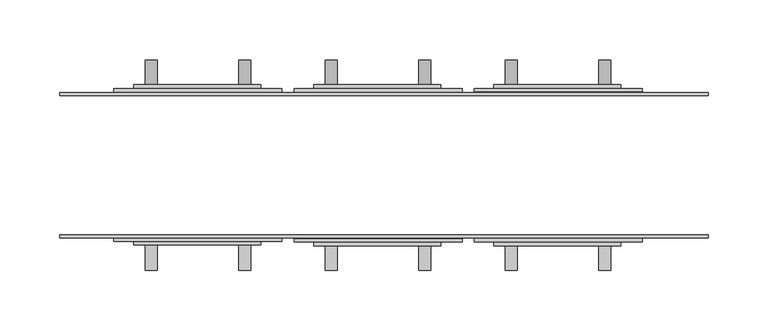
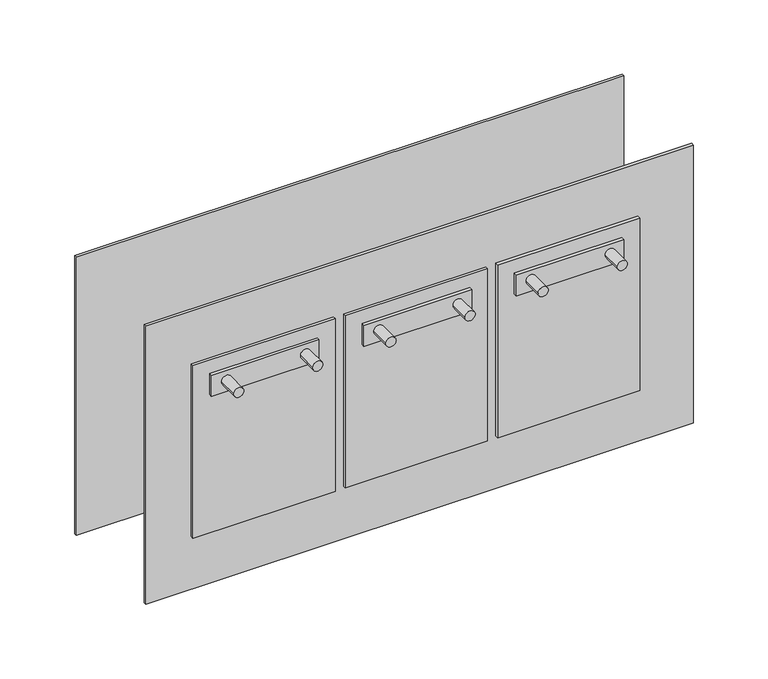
"""IFC4 building model written with IfcOpenShell, lengths in millimetres: proxy geometry, Distribution_Sockets : Distribution_Sockets."""

from ifc_helpers import new_model, si_unit, point, frame, frame_2d, origin, place, context, project, spatial, polyline, circle_curve, trimmed, segment, composite_curve, outline, extrude, source, transform, mapped, element, save


def electrical_equipment_7de670ac(model_context):
    return source(origin(), model_context, "Body", "SweptSolid", [
        extrude(outline(composite_curve([segment(trimmed(circle_curve(frame_2d((65.938994, -268.933241)), 5.0), [point((65.938994, -273.933241))], [point((65.938994, -263.933241))], False, "CARTESIAN"), True, "CONTINUOUS"), segment(trimmed(circle_curve(frame_2d((65.938994, -268.933241)), 5.0), [point((65.938994, -263.933241))], [point((65.938994, -273.933241))], False, "CARTESIAN"), True, "CONTINUOUS")], self_intersect=False)), frame((0.0, -87.9, 0.0), z_axis=(0.0, 1.0, 0.0), x_axis=(0.0, 0.0, 1.0)), (0.0, 0.0, 1.0), 20.9),
        extrude(outline(composite_curve([segment(trimmed(circle_curve(frame_2d((65.938994, -190.9375543)), 5.0), [point((65.938994, -195.9375543))], [point((65.938994, -185.9375543))], False, "CARTESIAN"), True, "CONTINUOUS"), segment(trimmed(circle_curve(frame_2d((65.938994, -190.9375543)), 5.0), [point((65.938994, -185.9375543))], [point((65.938994, -195.9375543))], False, "CARTESIAN"), True, "CONTINUOUS")], self_intersect=False)), frame((0.0, -87.9, 0.0), z_axis=(0.0, 1.0, 0.0), x_axis=(0.0, 0.0, 1.0)), (0.0, 0.0, 1.0), 20.9),
        extrude(outline(composite_curve([segment(trimmed(circle_curve(frame_2d((65.938994, -118.920841)), 5.0), [point((65.938994, -123.920841))], [point((65.938994, -113.920841))], False, "CARTESIAN"), True, "CONTINUOUS"), segment(trimmed(circle_curve(frame_2d((65.938994, -118.920841)), 5.0), [point((65.938994, -113.920841))], [point((65.938994, -123.920841))], False, "CARTESIAN"), True, "CONTINUOUS")], self_intersect=False)), frame((0.0, -87.9, 0.0), z_axis=(0.0, 1.0, 0.0), x_axis=(0.0, 0.0, 1.0)), (0.0, 0.0, 1.0), 20.9),
        extrude(outline(composite_curve([segment(trimmed(circle_curve(frame_2d((65.938994, -40.9251543)), 5.0), [point((65.938994, -45.9251543))], [point((65.938994, -35.9251543))], False, "CARTESIAN"), True, "CONTINUOUS"), segment(trimmed(circle_curve(frame_2d((65.938994, -40.9251543)), 5.0), [point((65.938994, -35.9251543))], [point((65.938994, -45.9251543))], False, "CARTESIAN"), True, "CONTINUOUS")], self_intersect=False)), frame((0.0, -87.9, 0.0), z_axis=(0.0, 1.0, 0.0), x_axis=(0.0, 0.0, 1.0)), (0.0, 0.0, 1.0), 20.9),
        extrude(outline(composite_curve([segment(trimmed(circle_curve(frame_2d((65.938994, 31.079159)), 5.0), [point((65.938994, 26.079159))], [point((65.938994, 36.079159))], False, "CARTESIAN"), True, "CONTINUOUS"), segment(trimmed(circle_curve(frame_2d((65.938994, 31.079159)), 5.0), [point((65.938994, 36.079159))], [point((65.938994, 26.079159))], False, "CARTESIAN"), True, "CONTINUOUS")], self_intersect=False)), frame((0.0, -87.9, 0.0), z_axis=(0.0, 1.0, 0.0), x_axis=(0.0, 0.0, 1.0)), (0.0, 0.0, 1.0), 20.9),
        extrude(outline(composite_curve([segment(trimmed(circle_curve(frame_2d((65.938994, 109.0748457)), 5.0), [point((65.938994, 104.0748457))], [point((65.938994, 114.0748457))], False, "CARTESIAN"), True, "CONTINUOUS"), segment(trimmed(circle_curve(frame_2d((65.938994, 109.0748457)), 5.0), [point((65.938994, 114.0748457))], [point((65.938994, 104.0748457))], False, "CARTESIAN"), True, "CONTINUOUS")], self_intersect=False)), frame((0.0, -87.9, 0.0), z_axis=(0.0, 1.0, 0.0), x_axis=(0.0, 0.0, 1.0)), (0.0, 0.0, 1.0), 20.9),
        extrude(outline(composite_curve([segment(trimmed(circle_curve(frame_2d((65.938994, -268.933241)), 5.0), [point((65.938994, -273.933241))], [point((65.938994, -263.933241))], False, "CARTESIAN"), True, "CONTINUOUS"), segment(trimmed(circle_curve(frame_2d((65.938994, -268.933241)), 5.0), [point((65.938994, -263.933241))], [point((65.938994, -273.933241))], False, "CARTESIAN"), True, "CONTINUOUS")], self_intersect=False)), frame((0.0, 67.0, 0.0), z_axis=(0.0, 1.0, 0.0), x_axis=(0.0, 0.0, 1.0)), (0.0, 0.0, 1.0), 20.9),
        extrude(outline(composite_curve([segment(trimmed(circle_curve(frame_2d((65.938994, -190.9375543)), 5.0), [point((65.938994, -195.9375543))], [point((65.938994, -185.9375543))], False, "CARTESIAN"), True, "CONTINUOUS"), segment(trimmed(circle_curve(frame_2d((65.938994, -190.9375543)), 5.0), [point((65.938994, -185.9375543))], [point((65.938994, -195.9375543))], False, "CARTESIAN"), True, "CONTINUOUS")], self_intersect=False)), frame((0.0, 67.0, 0.0), z_axis=(0.0, 1.0, 0.0), x_axis=(0.0, 0.0, 1.0)), (0.0, 0.0, 1.0), 20.9),
        extrude(outline(composite_curve([segment(trimmed(circle_curve(frame_2d((65.938994, -118.920841)), 5.0), [point((65.938994, -123.920841))], [point((65.938994, -113.920841))], False, "CARTESIAN"), True, "CONTINUOUS"), segment(trimmed(circle_curve(frame_2d((65.938994, -118.920841)), 5.0), [point((65.938994, -113.920841))], [point((65.938994, -123.920841))], False, "CARTESIAN"), True, "CONTINUOUS")], self_intersect=False)), frame((0.0, 67.0, 0.0), z_axis=(0.0, 1.0, 0.0), x_axis=(0.0, 0.0, 1.0)), (0.0, 0.0, 1.0), 20.9),
        extrude(outline(composite_curve([segment(trimmed(circle_curve(frame_2d((65.938994, -40.9251543)), 5.0), [point((65.938994, -45.9251543))], [point((65.938994, -35.9251543))], False, "CARTESIAN"), True, "CONTINUOUS"), segment(trimmed(circle_curve(frame_2d((65.938994, -40.9251543)), 5.0), [point((65.938994, -35.9251543))], [point((65.938994, -45.9251543))], False, "CARTESIAN"), True, "CONTINUOUS")], self_intersect=False)), frame((0.0, 67.0, 0.0), z_axis=(0.0, 1.0, 0.0), x_axis=(0.0, 0.0, 1.0)), (0.0, 0.0, 1.0), 20.9),
        extrude(outline(composite_curve([segment(trimmed(circle_curve(frame_2d((65.938994, 31.079159)), 5.0), [point((65.938994, 26.079159))], [point((65.938994, 36.079159))], False, "CARTESIAN"), True, "CONTINUOUS"), segment(trimmed(circle_curve(frame_2d((65.938994, 31.079159)), 5.0), [point((65.938994, 36.079159))], [point((65.938994, 26.079159))], False, "CARTESIAN"), True, "CONTINUOUS")], self_intersect=False)), frame((0.0, 67.0, 0.0), z_axis=(0.0, 1.0, 0.0), x_axis=(0.0, 0.0, 1.0)), (0.0, 0.0, 1.0), 20.9),
        extrude(outline(composite_curve([segment(trimmed(circle_curve(frame_2d((65.938994, 109.0748457)), 5.0), [point((65.938994, 104.0748457))], [point((65.938994, 114.0748457))], False, "CARTESIAN"), True, "CONTINUOUS"), segment(trimmed(circle_curve(frame_2d((65.938994, 109.0748457)), 5.0), [point((65.938994, 114.0748457))], [point((65.938994, 104.0748457))], False, "CARTESIAN"), True, "CONTINUOUS")], self_intersect=False)), frame((0.0, 67.0, 0.0), z_axis=(0.0, 1.0, 0.0), x_axis=(0.0, 0.0, 1.0)), (0.0, 0.0, 1.0), 20.9),
        extrude(outline(polyline([(-177.6321808, -66.6294997), (-283.6322514, -66.6294997), (-283.6322514, -63.6294997), (-177.6321808, -63.6294997), (-177.6321808, -66.6294997)])), frame((0.0, 0.0, 54.0), z_axis=(0.0, 0.0, 1.0), x_axis=(1.0, 0.0, 0.0)), (0.0, 0.0, 1.0), 22.0),
        extrude(outline(polyline([(-27.6196804, -67.3705036), (-133.619751, -67.3705036), (-133.619751, -64.0000036), (-27.6196804, -64.0000036), (-27.6196804, -67.3705036)])), frame((0.0, 0.0, 54.0), z_axis=(0.0, 0.0, 1.0), x_axis=(1.0, 0.0, 0.0)), (0.0, 0.0, 1.0), 22.0),
        extrude(outline(polyline([(122.3802833, -67.3704993), (16.3802127, -67.3704993), (16.3802127, -63.9999993), (122.3802833, -63.9999993), (122.3802833, -67.3704993)])), frame((0.0, 0.0, 54.0), z_axis=(0.0, 0.0, 1.0), x_axis=(1.0, 0.0, 0.0)), (0.0, 0.0, 1.0), 22.0),
        extrude(outline(polyline([(-177.6321808, 67.3704993), (-177.6321808, 63.9999993), (-283.6322514, 63.9999993), (-283.6322514, 67.3704993), (-177.6321808, 67.3704993)])), frame((0.0, 0.0, 54.0), z_axis=(0.0, 0.0, 1.0), x_axis=(1.0, 0.0, 0.0)), (0.0, 0.0, 1.0), 22.0),
        extrude(outline(polyline([(-27.6196804, 67.3705036), (-27.6196804, 64.0000036), (-133.619751, 64.0000036), (-133.619751, 67.3705036), (-27.6196804, 67.3705036)])), frame((0.0, 0.0, 54.0), z_axis=(0.0, 0.0, 1.0), x_axis=(1.0, 0.0, 0.0)), (0.0, 0.0, 1.0), 22.0),
        extrude(outline(polyline([(122.3802833, 67.3704993), (122.3802833, 63.9999993), (16.3802127, 63.9999993), (16.3802127, 67.3704993), (122.3802833, 67.3704993)])), frame((0.0, 0.0, 54.0), z_axis=(0.0, 0.0, 1.0), x_axis=(1.0, 0.0, 0.0)), (0.0, 0.0, 1.0), 22.0),
        extrude(outline(polyline([(-300.0123562, -63.6294997), (-300.0123562, -60.6294997), (-160.012326, -60.6294997), (-160.012326, -63.6294997), (-300.0123562, -63.6294997)])), frame((0.0, 0.0, -90.0), z_axis=(0.0, 0.0, 1.0), x_axis=(1.0, 0.0, 0.0)), (0.0, 0.0, 1.0), 180.0),
        extrude(outline(polyline([(-300.0123562, 64.0000022), (-160.012326, 64.0000022), (-160.012326, 60.6295025), (-300.0123562, 60.6295025), (-300.0123562, 64.0000022)])), frame((0.0, 0.0, -90.0), z_axis=(0.0, 0.0, 1.0), x_axis=(1.0, 0.0, 0.0)), (0.0, 0.0, 1.0), 180.0),
        extrude(outline(polyline([(-150.0000011, -63.9999971), (-150.0000011, -61.3705), (-9.999971, -61.3705), (-9.999971, -63.9999971), (-150.0000011, -63.9999971)])), frame((0.0, 0.0, -90.0), z_axis=(0.0, 0.0, 1.0), x_axis=(1.0, 0.0, 0.0)), (0.0, 0.0, 1.0), 180.0),
        extrude(outline(polyline([(-150.0000011, 64.0000022), (-9.999971, 64.0000022), (-9.999971, 60.6295025), (-150.0000011, 60.6295025), (-150.0000011, 64.0000022)])), frame((0.0, 0.0, -90.0), z_axis=(0.0, 0.0, 1.0), x_axis=(1.0, 0.0, 0.0)), (0.0, 0.0, 1.0), 180.0),
        extrude(outline(polyline([(2.48e-05, -63.9999993), (2.48e-05, -60.6295015), (140.000055, -60.6295015), (140.000055, -63.9999993), (2.48e-05, -63.9999993)])), frame((0.0, 0.0, -90.0), z_axis=(0.0, 0.0, 1.0), x_axis=(1.0, 0.0, 0.0)), (0.0, 0.0, 1.0), 180.0),
        extrude(outline(polyline([(2.48e-05, 64.0), (140.000055, 64.0), (140.000055, 61.370498), (2.48e-05, 61.370498), (2.48e-05, 64.0)])), frame((0.0, 0.0, -90.0), z_axis=(0.0, 0.0, 1.0), x_axis=(1.0, 0.0, 0.0)), (0.0, 0.0, 1.0), 180.0),
        extrude(outline(polyline([(195.0000172, -60.6294997), (-345.0048134, -60.6294997), (-345.0048134, -58.0), (195.0000172, -58.0), (195.0000172, -60.6294997)])), frame((0.0, 0.0, -145.0), z_axis=(0.0, 0.0, 1.0), x_axis=(1.0, 0.0, 0.0)), (0.0, 0.0, 1.0), 290.0),
        extrude(outline(polyline([(-345.0048134, 60.6295025), (195.0000172, 60.6295025), (195.0000172, 58.0), (-345.0048134, 58.0), (-345.0048134, 60.6295025)])), frame((0.0, 0.0, -145.0), z_axis=(0.0, 0.0, 1.0), x_axis=(1.0, 0.0, 0.0)), (0.0, 0.0, 1.0), 290.0),
    ])


if __name__ == "__main__":
    model = new_model("IFC4")
    model_context = context("Model", 3, world=origin())
    ifc_project = project(units=[si_unit("LENGTHUNIT", "METRE", prefix="MILLI")], contexts=[model_context])
    site = spatial("IfcSite", under=ifc_project)
    building = spatial("IfcBuilding", under=site)
    placement = place(None, origin())
    electrical_equipment_shape = electrical_equipment_7de670ac(model_context)
    element("IfcBuildingElementProxy", 1, Name="Distribution_Sockets : Distribution_Sockets", ObjectType="Distribution_Sockets : Distribution_Sockets", at=placement, inside=building, context=model_context, shape_type="MappedRepresentation", body=[
        mapped(electrical_equipment_shape, transform((0.0, 0.0, 0.0), x_axis=(1.0, 0.0, 0.0), y_axis=(0.0, 1.0, 0.0), z_axis=(0.0, 0.0, 1.0))),
    ])
    save(model, "model.ifc")
